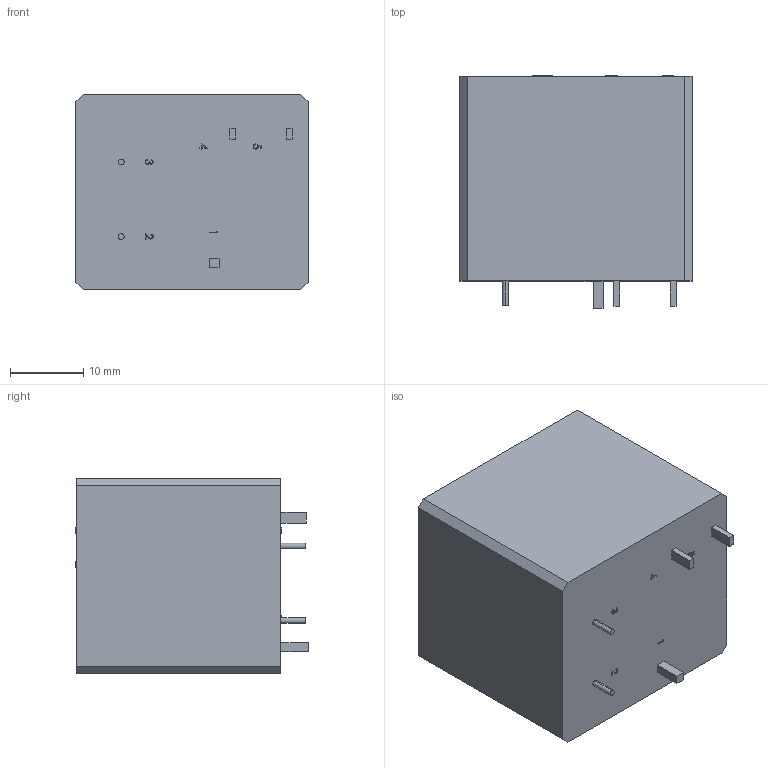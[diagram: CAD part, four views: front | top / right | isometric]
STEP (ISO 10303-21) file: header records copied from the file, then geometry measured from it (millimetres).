
FILE_DESCRIPTION(('FreeCAD Model'),'2;1');
FILE_NAME('C:/Users/Jane Koetz/Desktop/J1R-TMP.step', '2020-05-21T11:08:42',('VKV'),('Metaltex'), 'Open CASCADE STEP processor 7.3','FreeCAD','Unknown');
FILE_SCHEMA(('AUTOMOTIVE_DESIGN { 1 0 10303 214 1 1 1 1 }'));
Length unit declared in the file: millimetre
Products named in the file (1): J1R-TMP
Bounding box: 31.8 x 31.85 x 26.8 mm (x, y, z)
Volume: 22248.7 mm3; surface area: 6337.1 mm2
Topology: 1 solids, 1 shells, 226 faces, 591 edges, 394 vertices
Faces by surface type: plane 152, bspline 62, cylinder 12
Entity records: 10768 total; most frequent: CARTESIAN_POINT 5562, ORIENTED_EDGE 1182, DIRECTION 821, EDGE_CURVE 591, LINE 443, VECTOR 443, VERTEX_POINT 394, FACE_BOUND 259
